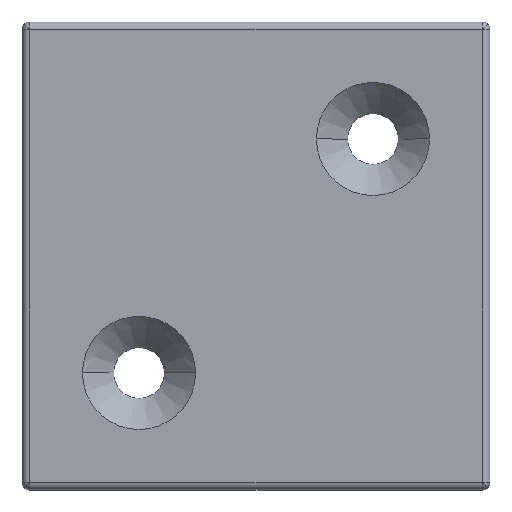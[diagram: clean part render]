
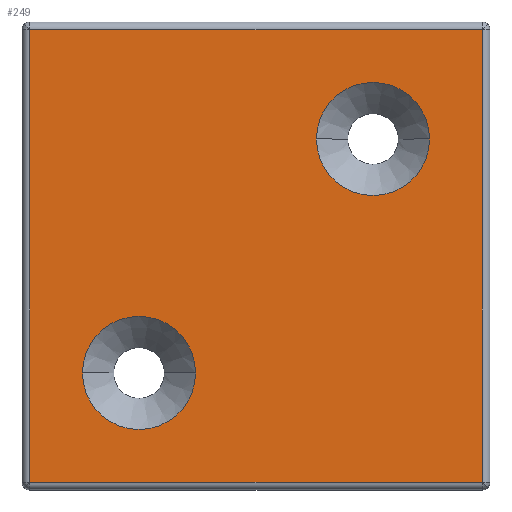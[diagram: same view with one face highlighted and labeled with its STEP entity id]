
A CAD part, top view. The second image highlights one B-rep face of the part: STEP entity #249.
In plain terms, the highlighted planar face has unit normal (0, 0, 1).
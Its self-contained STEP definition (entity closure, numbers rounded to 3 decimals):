
#69 = EDGE_CURVE ( 'NONE', #1065, #293, #1415, .T. ) ;
#86 = DIRECTION ( 'NONE',  ( 0., 1., 0. ) ) ;
#119 = CARTESIAN_POINT ( 'NONE',  ( 15., 15., 5. ) ) ;
#141 = DIRECTION ( 'NONE',  ( 1., 0., 0. ) ) ;
#188 = CARTESIAN_POINT ( 'NONE',  ( 7.75, 15., 5. ) ) ;
#207 = VECTOR ( 'NONE', #1329, 1000. ) ;
#226 = EDGE_CURVE ( 'NONE', #1478, #1542, #1191, .T. ) ;
#246 = DIRECTION ( 'NONE',  ( 0., 0., -1. ) ) ;
#247 = AXIS2_PLACEMENT_3D ( 'NONE', #1335, #508, #141 ) ;
#249 = ADVANCED_FACE ( 'NONE', ( #797, #1101, #1628 ), #1480, .T. ) ;
#252 = CARTESIAN_POINT ( 'NONE',  ( -29., -29., 5. ) ) ;
#269 = DIRECTION ( 'NONE',  ( 0., 0., -1. ) ) ;
#293 = VERTEX_POINT ( 'NONE', #252 ) ;
#305 = EDGE_CURVE ( 'NONE', #1616, #964, #1243, .T. ) ;
#320 = AXIS2_PLACEMENT_3D ( 'NONE', #1047, #269, #1198 ) ;
#324 = CARTESIAN_POINT ( 'NONE',  ( 0., -29., 5. ) ) ;
#331 = EDGE_LOOP ( 'NONE', ( #1426, #656 ) ) ;
#343 = CARTESIAN_POINT ( 'NONE',  ( -22.25, -15., 5. ) ) ;
#359 = DIRECTION ( 'NONE',  ( 1., 0., 0. ) ) ;
#364 = EDGE_LOOP ( 'NONE', ( #1421, #413, #502, #539 ) ) ;
#405 = VERTEX_POINT ( 'NONE', #1276 ) ;
#413 = ORIENTED_EDGE ( 'NONE', *, *, #69, .T. ) ;
#444 = ORIENTED_EDGE ( 'NONE', *, *, #1622, .T. ) ;
#468 = VERTEX_POINT ( 'NONE', #188 ) ;
#484 = EDGE_CURVE ( 'NONE', #1542, #1065, #1235, .T. ) ;
#502 = ORIENTED_EDGE ( 'NONE', *, *, #1604, .T. ) ;
#508 = DIRECTION ( 'NONE',  ( 0., 0., 1. ) ) ;
#539 = ORIENTED_EDGE ( 'NONE', *, *, #226, .T. ) ;
#573 = CARTESIAN_POINT ( 'NONE',  ( -29., 0., 5. ) ) ;
#630 = CARTESIAN_POINT ( 'NONE',  ( 29., -29., 5. ) ) ;
#644 = CARTESIAN_POINT ( 'NONE',  ( -29., 29., 5. ) ) ;
#656 = ORIENTED_EDGE ( 'NONE', *, *, #305, .T. ) ;
#696 = VECTOR ( 'NONE', #1539, 1000. ) ;
#787 = ORIENTED_EDGE ( 'NONE', *, *, #1136, .T. ) ;
#797 = FACE_BOUND ( 'NONE', #1318, .T. ) ;
#842 = CARTESIAN_POINT ( 'NONE',  ( -15., -15., 5. ) ) ;
#903 = CARTESIAN_POINT ( 'NONE',  ( 29., 0., 5. ) ) ;
#928 = VECTOR ( 'NONE', #86, 1000. ) ;
#935 = DIRECTION ( 'NONE',  ( 0., 0., -1. ) ) ;
#964 = VERTEX_POINT ( 'NONE', #343 ) ;
#973 = CIRCLE ( 'NONE', #1643, 7.25 ) ;
#994 = CIRCLE ( 'NONE', #1531, 7.25 ) ;
#1000 = CARTESIAN_POINT ( 'NONE',  ( 0., 29., 5. ) ) ;
#1022 = LINE ( 'NONE', #324, #1038 ) ;
#1038 = VECTOR ( 'NONE', #1567, 1000. ) ;
#1047 = CARTESIAN_POINT ( 'NONE',  ( -15., -15., 5. ) ) ;
#1065 = VERTEX_POINT ( 'NONE', #644 ) ;
#1098 = AXIS2_PLACEMENT_3D ( 'NONE', #1540, #935, #1532 ) ;
#1101 = FACE_BOUND ( 'NONE', #331, .T. ) ;
#1136 = EDGE_CURVE ( 'NONE', #468, #405, #1551, .T. ) ;
#1191 = LINE ( 'NONE', #903, #928 ) ;
#1198 = DIRECTION ( 'NONE',  ( 1., 0., 0. ) ) ;
#1235 = LINE ( 'NONE', #1000, #696 ) ;
#1243 = CIRCLE ( 'NONE', #320, 7.25 ) ;
#1276 = CARTESIAN_POINT ( 'NONE',  ( 22.25, 15., 5. ) ) ;
#1288 = DIRECTION ( 'NONE',  ( 1., 0., 0. ) ) ;
#1318 = EDGE_LOOP ( 'NONE', ( #787, #444 ) ) ;
#1329 = DIRECTION ( 'NONE',  ( 0., -1., 0. ) ) ;
#1335 = CARTESIAN_POINT ( 'NONE',  ( 0., 0., 5. ) ) ;
#1415 = LINE ( 'NONE', #573, #207 ) ;
#1421 = ORIENTED_EDGE ( 'NONE', *, *, #484, .T. ) ;
#1426 = ORIENTED_EDGE ( 'NONE', *, *, #1650, .T. ) ;
#1468 = CARTESIAN_POINT ( 'NONE',  ( -7.75, -15., 5. ) ) ;
#1478 = VERTEX_POINT ( 'NONE', #630 ) ;
#1480 = PLANE ( 'NONE',  #247 ) ;
#1531 = AXIS2_PLACEMENT_3D ( 'NONE', #119, #246, #359 ) ;
#1532 = DIRECTION ( 'NONE',  ( 1., 0., 0. ) ) ;
#1539 = DIRECTION ( 'NONE',  ( -1., 0., 0. ) ) ;
#1540 = CARTESIAN_POINT ( 'NONE',  ( 15., 15., 5. ) ) ;
#1542 = VERTEX_POINT ( 'NONE', #1600 ) ;
#1551 = CIRCLE ( 'NONE', #1098, 7.25 ) ;
#1567 = DIRECTION ( 'NONE',  ( 1., 0., 0. ) ) ;
#1600 = CARTESIAN_POINT ( 'NONE',  ( 29., 29., 5. ) ) ;
#1604 = EDGE_CURVE ( 'NONE', #293, #1478, #1022, .T. ) ;
#1616 = VERTEX_POINT ( 'NONE', #1468 ) ;
#1622 = EDGE_CURVE ( 'NONE', #405, #468, #994, .T. ) ;
#1628 = FACE_OUTER_BOUND ( 'NONE', #364, .T. ) ;
#1643 = AXIS2_PLACEMENT_3D ( 'NONE', #842, #1721, #1288 ) ;
#1650 = EDGE_CURVE ( 'NONE', #964, #1616, #973, .T. ) ;
#1721 = DIRECTION ( 'NONE',  ( 0., 0., -1. ) ) ;
